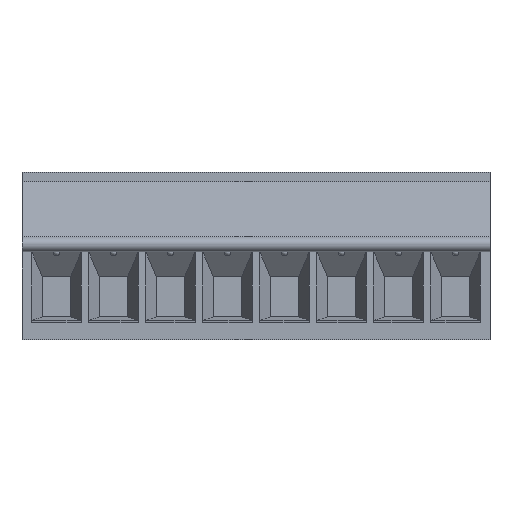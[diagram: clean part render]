
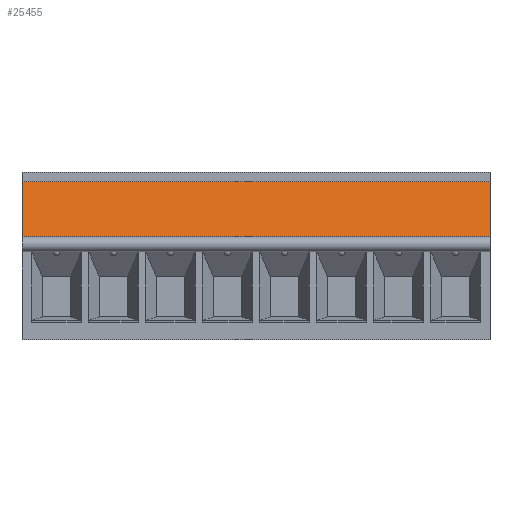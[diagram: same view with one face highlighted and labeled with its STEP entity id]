
A CAD part, top view. The second image highlights one B-rep face of the part: STEP entity #25455.
In plain terms, the highlighted planar face has unit normal (0, 0.249, 0.969).
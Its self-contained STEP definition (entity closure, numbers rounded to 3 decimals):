
#32 = PLANE('',#33);
#33 = AXIS2_PLACEMENT_3D('',#34,#35,#36);
#34 = CARTESIAN_POINT('',(0.,-29.45,2.413));
#35 = DIRECTION('',(1.,0.,0.));
#36 = DIRECTION('',(0.,0.,-1.));
#118 = VERTEX_POINT('',#119);
#119 = CARTESIAN_POINT('',(0.,0.5,-0.65));
#133 = PLANE('',#134);
#134 = AXIS2_PLACEMENT_3D('',#135,#136,#137);
#135 = CARTESIAN_POINT('',(0.,0.5,0.));
#136 = DIRECTION('',(0.,-1.,0.));
#137 = DIRECTION('',(0.,0.,-1.));
#145 = EDGE_CURVE('',#118,#146,#148,.T.);
#146 = VERTEX_POINT('',#147);
#147 = CARTESIAN_POINT('',(0.,4.2,-1.6));
#148 = SURFACE_CURVE('',#149,(#153,#160),.PCURVE_S1.);
#149 = LINE('',#150,#151);
#150 = CARTESIAN_POINT('',(0.,0.5,-0.65));
#151 = VECTOR('',#152,1.);
#152 = DIRECTION('',(0.,0.969,-0.249));
#153 = PCURVE('',#32,#154);
#154 = DEFINITIONAL_REPRESENTATION('',(#155),#159);
#155 = LINE('',#156,#157);
#156 = CARTESIAN_POINT('',(3.063,29.95));
#157 = VECTOR('',#158,1.);
#158 = DIRECTION('',(0.249,0.969));
#159 = ( GEOMETRIC_REPRESENTATION_CONTEXT(2) 
PARAMETRIC_REPRESENTATION_CONTEXT() REPRESENTATION_CONTEXT('2D SPACE',''
  ) );
#160 = PCURVE('',#161,#166);
#161 = PLANE('',#162);
#162 = AXIS2_PLACEMENT_3D('',#163,#164,#165);
#163 = CARTESIAN_POINT('',(0.,0.5,-0.65));
#164 = DIRECTION('',(0.,-0.249,-0.969));
#165 = DIRECTION('',(0.,0.969,-0.249));
#166 = DEFINITIONAL_REPRESENTATION('',(#167),#171);
#167 = LINE('',#168,#169);
#168 = CARTESIAN_POINT('',(0.,0.));
#169 = VECTOR('',#170,1.);
#170 = DIRECTION('',(1.,0.));
#171 = ( GEOMETRIC_REPRESENTATION_CONTEXT(2) 
PARAMETRIC_REPRESENTATION_CONTEXT() REPRESENTATION_CONTEXT('2D SPACE',''
  ) );
#189 = PLANE('',#190);
#190 = AXIS2_PLACEMENT_3D('',#191,#192,#193);
#191 = CARTESIAN_POINT('',(0.,4.2,-1.6));
#192 = DIRECTION('',(0.,1.,0.));
#193 = DIRECTION('',(0.,-0.,1.));
#437 = PLANE('',#438);
#438 = AXIS2_PLACEMENT_3D('',#439,#440,#441);
#439 = CARTESIAN_POINT('',(-31.27,-12.25,-10.621));
#440 = DIRECTION('',(-1.,0.,0.));
#441 = DIRECTION('',(0.,0.,1.));
#25410 = EDGE_CURVE('',#146,#25411,#25413,.T.);
#25411 = VERTEX_POINT('',#25412);
#25412 = CARTESIAN_POINT('',(-31.27,4.2,-1.6));
#25413 = SURFACE_CURVE('',#25414,(#25418,#25425),.PCURVE_S1.);
#25414 = LINE('',#25415,#25416);
#25415 = CARTESIAN_POINT('',(0.,4.2,-1.6));
#25416 = VECTOR('',#25417,1.);
#25417 = DIRECTION('',(-1.,0.,0.));
#25418 = PCURVE('',#189,#25419);
#25419 = DEFINITIONAL_REPRESENTATION('',(#25420),#25424);
#25420 = LINE('',#25421,#25422);
#25421 = CARTESIAN_POINT('',(0.,0.));
#25422 = VECTOR('',#25423,1.);
#25423 = DIRECTION('',(0.,-1.));
#25424 = ( GEOMETRIC_REPRESENTATION_CONTEXT(2) 
PARAMETRIC_REPRESENTATION_CONTEXT() REPRESENTATION_CONTEXT('2D SPACE',''
  ) );
#25425 = PCURVE('',#161,#25426);
#25426 = DEFINITIONAL_REPRESENTATION('',(#25427),#25431);
#25427 = LINE('',#25428,#25429);
#25428 = CARTESIAN_POINT('',(3.82,0.));
#25429 = VECTOR('',#25430,1.);
#25430 = DIRECTION('',(0.,-1.));
#25431 = ( GEOMETRIC_REPRESENTATION_CONTEXT(2) 
PARAMETRIC_REPRESENTATION_CONTEXT() REPRESENTATION_CONTEXT('2D SPACE',''
  ) );
#25455 = ADVANCED_FACE('',(#25456),#161,.F.);
#25456 = FACE_BOUND('',#25457,.F.);
#25457 = EDGE_LOOP('',(#25458,#25481,#25502,#25503));
#25458 = ORIENTED_EDGE('',*,*,#25459,.T.);
#25459 = EDGE_CURVE('',#118,#25460,#25462,.T.);
#25460 = VERTEX_POINT('',#25461);
#25461 = CARTESIAN_POINT('',(-31.27,0.5,-0.65));
#25462 = SURFACE_CURVE('',#25463,(#25467,#25474),.PCURVE_S1.);
#25463 = LINE('',#25464,#25465);
#25464 = CARTESIAN_POINT('',(0.,0.5,-0.65));
#25465 = VECTOR('',#25466,1.);
#25466 = DIRECTION('',(-1.,0.,0.));
#25467 = PCURVE('',#161,#25468);
#25468 = DEFINITIONAL_REPRESENTATION('',(#25469),#25473);
#25469 = LINE('',#25470,#25471);
#25470 = CARTESIAN_POINT('',(0.,0.));
#25471 = VECTOR('',#25472,1.);
#25472 = DIRECTION('',(0.,-1.));
#25473 = ( GEOMETRIC_REPRESENTATION_CONTEXT(2) 
PARAMETRIC_REPRESENTATION_CONTEXT() REPRESENTATION_CONTEXT('2D SPACE',''
  ) );
#25474 = PCURVE('',#133,#25475);
#25475 = DEFINITIONAL_REPRESENTATION('',(#25476),#25480);
#25476 = LINE('',#25477,#25478);
#25477 = CARTESIAN_POINT('',(0.65,0.));
#25478 = VECTOR('',#25479,1.);
#25479 = DIRECTION('',(0.,-1.));
#25480 = ( GEOMETRIC_REPRESENTATION_CONTEXT(2) 
PARAMETRIC_REPRESENTATION_CONTEXT() REPRESENTATION_CONTEXT('2D SPACE',''
  ) );
#25481 = ORIENTED_EDGE('',*,*,#25482,.T.);
#25482 = EDGE_CURVE('',#25460,#25411,#25483,.T.);
#25483 = SURFACE_CURVE('',#25484,(#25488,#25495),.PCURVE_S1.);
#25484 = LINE('',#25485,#25486);
#25485 = CARTESIAN_POINT('',(-31.27,0.5,-0.65));
#25486 = VECTOR('',#25487,1.);
#25487 = DIRECTION('',(0.,0.969,-0.249));
#25488 = PCURVE('',#161,#25489);
#25489 = DEFINITIONAL_REPRESENTATION('',(#25490),#25494);
#25490 = LINE('',#25491,#25492);
#25491 = CARTESIAN_POINT('',(0.,-31.27));
#25492 = VECTOR('',#25493,1.);
#25493 = DIRECTION('',(1.,0.));
#25494 = ( GEOMETRIC_REPRESENTATION_CONTEXT(2) 
PARAMETRIC_REPRESENTATION_CONTEXT() REPRESENTATION_CONTEXT('2D SPACE',''
  ) );
#25495 = PCURVE('',#437,#25496);
#25496 = DEFINITIONAL_REPRESENTATION('',(#25497),#25501);
#25497 = LINE('',#25498,#25499);
#25498 = CARTESIAN_POINT('',(9.971,12.75));
#25499 = VECTOR('',#25500,1.);
#25500 = DIRECTION('',(-0.249,0.969));
#25501 = ( GEOMETRIC_REPRESENTATION_CONTEXT(2) 
PARAMETRIC_REPRESENTATION_CONTEXT() REPRESENTATION_CONTEXT('2D SPACE',''
  ) );
#25502 = ORIENTED_EDGE('',*,*,#25410,.F.);
#25503 = ORIENTED_EDGE('',*,*,#145,.F.);
